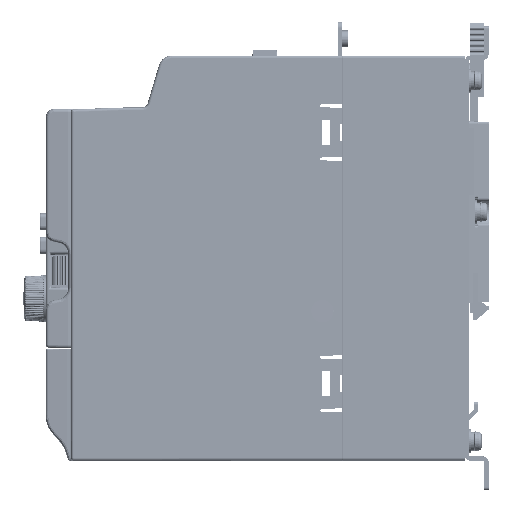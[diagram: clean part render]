
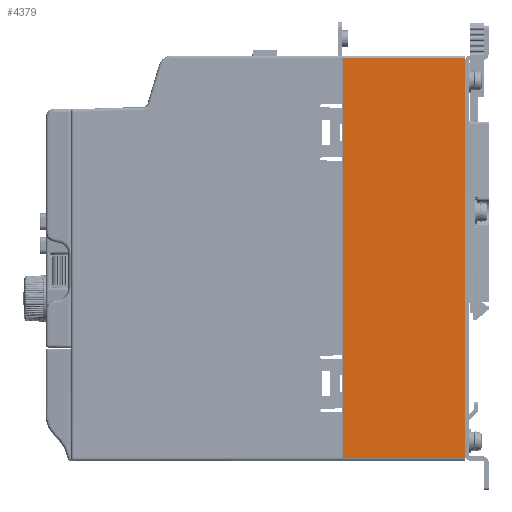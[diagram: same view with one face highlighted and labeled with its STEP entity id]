
A CAD part, left-side view. The second image highlights one B-rep face of the part: STEP entity #4379.
In plain terms, the highlighted planar face has unit normal (-1, 0, 0).
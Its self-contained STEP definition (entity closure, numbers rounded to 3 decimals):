
#1321=DIRECTION('',(0.,0.,-1.));
#1322=VECTOR('',#1321,143.);
#1323=CARTESIAN_POINT('',(-47.5,-44.,71.5));
#1324=LINE('',#1323,#1322);
#2102=DIRECTION('',(0.,0.,-1.));
#2103=VECTOR('',#2102,143.);
#2104=CARTESIAN_POINT('',(-47.5,-0.2,71.5));
#2105=LINE('',#2104,#2103);
#2109=DIRECTION('',(0.,1.,0.));
#2110=VECTOR('',#2109,43.8);
#2111=CARTESIAN_POINT('',(-47.5,-44.,71.5));
#2112=LINE('',#2111,#2110);
#2116=DIRECTION('',(0.,-1.,0.));
#2117=VECTOR('',#2116,43.8);
#2118=CARTESIAN_POINT('',(-47.5,-0.2,-71.5));
#2119=LINE('',#2118,#2117);
#2910=CARTESIAN_POINT('',(-47.5,-44.,71.5));
#2912=VERTEX_POINT('',#2910);
#2913=CARTESIAN_POINT('',(-47.5,-44.,-71.5));
#2915=VERTEX_POINT('',#2913);
#2958=CARTESIAN_POINT('',(-47.5,-0.2,71.5));
#2960=VERTEX_POINT('',#2958);
#2965=CARTESIAN_POINT('',(-47.5,-0.2,-71.5));
#2966=VERTEX_POINT('',#2965);
#4367=CARTESIAN_POINT('',(-47.5,0.,-72.5));
#4368=DIRECTION('',(-1.,0.,0.));
#4369=DIRECTION('',(0.,-1.,0.));
#4370=AXIS2_PLACEMENT_3D('',#4367,#4368,#4369);
#4371=PLANE('',#4370);
#4373=ORIENTED_EDGE('',*,*,#4372,.F.);
#4374=ORIENTED_EDGE('',*,*,#3719,.F.);
#4375=ORIENTED_EDGE('',*,*,#3738,.T.);
#4376=ORIENTED_EDGE('',*,*,#4360,.F.);
#4377=EDGE_LOOP('',(#4373,#4374,#4375,#4376));
#4378=FACE_OUTER_BOUND('',#4377,.F.);
#4379=ADVANCED_FACE('',(#4378),#4371,.T.);
#3719=EDGE_CURVE('',#2912,#2960,#2112,.T.);
#3738=EDGE_CURVE('',#2912,#2915,#1324,.T.);
#4360=EDGE_CURVE('',#2966,#2915,#2119,.T.);
#4372=EDGE_CURVE('',#2960,#2966,#2105,.T.);
